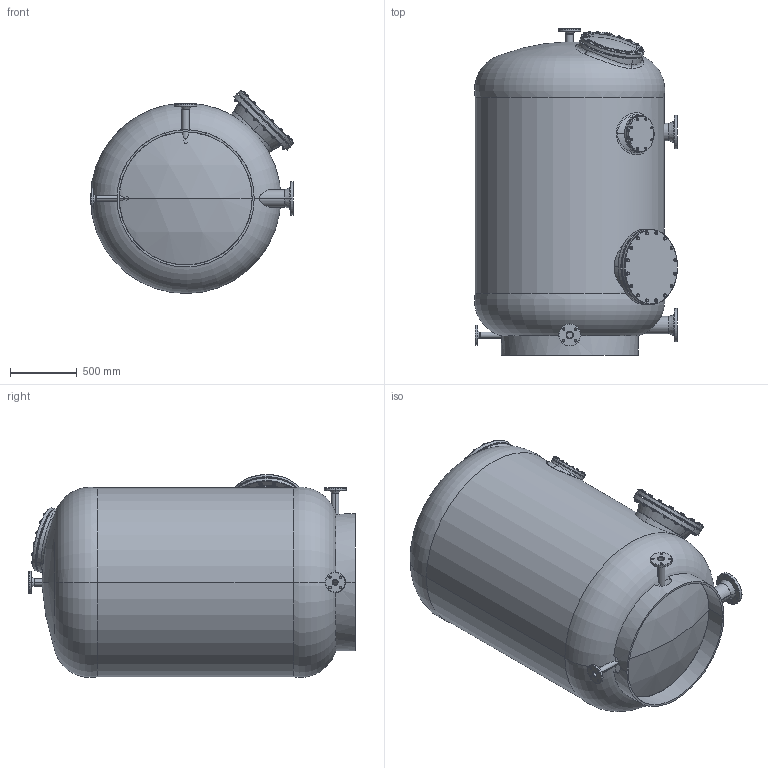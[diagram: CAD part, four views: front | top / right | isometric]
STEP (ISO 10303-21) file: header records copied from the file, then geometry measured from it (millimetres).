
FILE_DESCRIPTION (( 'STEP AP214' ), '1' );
FILE_NAME ('mediterran140c.STEP', '2020-11-03T13:10:55', ( '' ), ( '' ), 'SwSTEP 2.0', 'SolidWorks 2019', '' );
FILE_SCHEMA (( 'AUTOMOTIVE_DESIGN' ));
Length unit declared in the file: millimetre
Products named in the file (1): mediterran140c
Bounding box: 1523.79 x 2450.25 x 1523.79 mm (x, y, z)
Surface area: 26674179.6 mm2 (no closed solid volume)
Topology: 0 solids, 149 shells, 2172 faces, 4848 edges, 2963 vertices
Faces by surface type: cone 688, cylinder 688, plane 662, torus 112, bspline 14, sphere 8
Entity records: 108598 total; most frequent: CARTESIAN_POINT 35625, DIRECTION 10123, ORIENTED_EDGE 9496, EDGE_CURVE 4796, AXIS2_PLACEMENT_3D 4324, VERTEX_POINT 2963, EDGE_LOOP 2607, UNCERTAINTY_MEASURE_WITH_UNIT 2299
